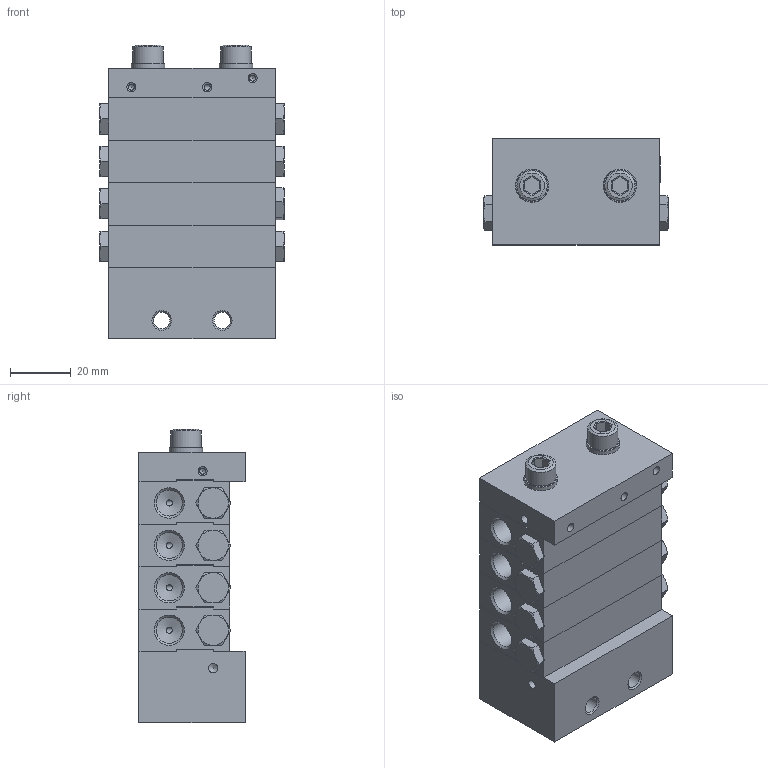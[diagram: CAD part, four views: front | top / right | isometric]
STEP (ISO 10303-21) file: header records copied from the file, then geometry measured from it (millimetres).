
FILE_DESCRIPTION (( 'STEP AP214' ), '1' );
FILE_NAME ('STW_XV_7_Auslässe.STEP', '2025-09-16T13:27:26', ( '' ), ( '' ), 'SwSTEP 2.0', 'SolidWorks 2022', '' );
FILE_SCHEMA (( 'AUTOMOTIVE_DESIGN' ));
Length unit declared in the file: millimetre
Products named in the file (11): Verschlussstopfen_1_8; U_Scheibe_6; STW_XV_Verbindungsstopen; STW_XV_MITTEL_1; O_RING_3X1; STW_XV_7_Auslässe; STW_XV_ENGANG; M6X65_DIN_912; STW_XV_Kolbenanschlag; STW_XV_END
Assembly tree (35 placements, depth 2):
  STW_XV_7_Auslässe
    STW_XV_ENGANG
    O_RING_3X1  x4
    STW_XV_MITTEL_1  x4
    STW_XV_END
    Verschlussstopfen_1_8  x8
    STW_XV_Kolbenanschlag  x8
    STW_XV_Verbindungsstopen  x4
    M6X65_DIN_912  x2
    U_Scheibe_6  x2
    Verschlussstopfen_1_8
Bounding box: 61 x 35 x 96.8 mm (x, y, z)
Volume: 146237.7 mm3; surface area: 67089.1 mm2
Topology: 35 solids, 35 shells, 1356 faces, 3549 edges, 2270 vertices
Faces by surface type: plane 646, cylinder 347, cone 255, bspline 96, torus 12
Full cylindrical faces by diameter (mm): 2 x113, 3 x7, 5 x47, 5.5 x2, 5.9 x2, 6 x2, 6.2 x10, 6.4 x2, 6.5 x8, 7 x8, 8 x8, 8.4 x4, 8.6 x20, 9 x9, 9.7 x9, 9.73 x4, 10 x10, 11 x2, 15 x1
Entity records: 34607 total; most frequent: CARTESIAN_POINT 15280, ORIENTED_EDGE 2596, DIRECTION 2179, EDGE_CURVE 1298, VERTEX_POINT 919, EDGE_LOOP 845, AXIS2_PLACEMENT_3D 745, VECTOR 689
